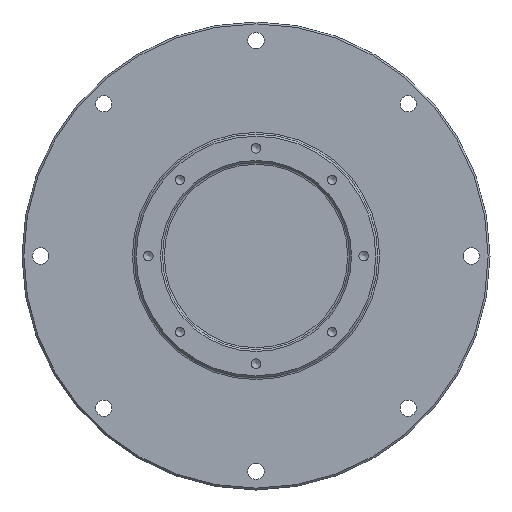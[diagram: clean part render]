
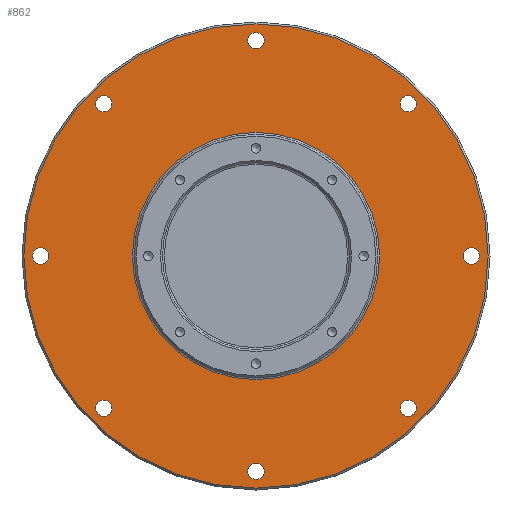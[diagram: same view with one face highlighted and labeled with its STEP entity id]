
A CAD part, left-side view. The second image highlights one B-rep face of the part: STEP entity #862.
In plain terms, the highlighted planar face has unit normal (-1, 0, 0).
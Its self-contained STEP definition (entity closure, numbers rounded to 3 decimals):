
#134=FACE_BOUND('',#257,.T.);
#135=FACE_BOUND('',#258,.T.);
#136=FACE_BOUND('',#259,.T.);
#137=FACE_BOUND('',#260,.T.);
#138=FACE_BOUND('',#261,.T.);
#139=FACE_BOUND('',#262,.T.);
#140=FACE_BOUND('',#263,.T.);
#141=FACE_BOUND('',#264,.T.);
#142=FACE_BOUND('',#265,.T.);
#166=PLANE('',#983);
#201=FACE_OUTER_BOUND('',#256,.T.);
#256=EDGE_LOOP('',(#709));
#257=EDGE_LOOP('',(#710));
#258=EDGE_LOOP('',(#711));
#259=EDGE_LOOP('',(#712));
#260=EDGE_LOOP('',(#713));
#261=EDGE_LOOP('',(#714));
#262=EDGE_LOOP('',(#715));
#263=EDGE_LOOP('',(#716));
#264=EDGE_LOOP('',(#717));
#265=EDGE_LOOP('',(#718));
#350=CIRCLE('',#978,132.);
#354=CIRCLE('',#984,248.);
#355=CIRCLE('',#985,8.75);
#356=CIRCLE('',#986,8.75);
#357=CIRCLE('',#987,8.75);
#358=CIRCLE('',#988,8.75);
#359=CIRCLE('',#989,8.75);
#360=CIRCLE('',#990,8.75);
#361=CIRCLE('',#991,8.75);
#362=CIRCLE('',#992,8.75);
#434=VERTEX_POINT('',#1487);
#437=VERTEX_POINT('',#1498);
#438=VERTEX_POINT('',#1500);
#439=VERTEX_POINT('',#1502);
#440=VERTEX_POINT('',#1504);
#441=VERTEX_POINT('',#1506);
#442=VERTEX_POINT('',#1508);
#443=VERTEX_POINT('',#1510);
#444=VERTEX_POINT('',#1512);
#445=VERTEX_POINT('',#1514);
#533=EDGE_CURVE('',#434,#434,#350,.T.);
#538=EDGE_CURVE('',#437,#437,#354,.T.);
#539=EDGE_CURVE('',#438,#438,#355,.T.);
#540=EDGE_CURVE('',#439,#439,#356,.T.);
#541=EDGE_CURVE('',#440,#440,#357,.T.);
#542=EDGE_CURVE('',#441,#441,#358,.T.);
#543=EDGE_CURVE('',#442,#442,#359,.T.);
#544=EDGE_CURVE('',#443,#443,#360,.T.);
#545=EDGE_CURVE('',#444,#444,#361,.T.);
#546=EDGE_CURVE('',#445,#445,#362,.T.);
#709=ORIENTED_EDGE('',*,*,#538,.F.);
#710=ORIENTED_EDGE('',*,*,#539,.T.);
#711=ORIENTED_EDGE('',*,*,#540,.T.);
#712=ORIENTED_EDGE('',*,*,#541,.T.);
#713=ORIENTED_EDGE('',*,*,#542,.T.);
#714=ORIENTED_EDGE('',*,*,#543,.T.);
#715=ORIENTED_EDGE('',*,*,#544,.T.);
#716=ORIENTED_EDGE('',*,*,#545,.T.);
#717=ORIENTED_EDGE('',*,*,#546,.T.);
#718=ORIENTED_EDGE('',*,*,#533,.F.);
#862=ADVANCED_FACE('',(#201,#134,#135,#136,#137,#138,#139,#140,#141,#142),
#166,.T.);
#978=AXIS2_PLACEMENT_3D('',#1489,#1208,#1209);
#983=AXIS2_PLACEMENT_3D('',#1497,#1219,#1220);
#984=AXIS2_PLACEMENT_3D('',#1499,#1221,#1222);
#985=AXIS2_PLACEMENT_3D('',#1501,#1223,#1224);
#986=AXIS2_PLACEMENT_3D('',#1503,#1225,#1226);
#987=AXIS2_PLACEMENT_3D('',#1505,#1227,#1228);
#988=AXIS2_PLACEMENT_3D('',#1507,#1229,#1230);
#989=AXIS2_PLACEMENT_3D('',#1509,#1231,#1232);
#990=AXIS2_PLACEMENT_3D('',#1511,#1233,#1234);
#991=AXIS2_PLACEMENT_3D('',#1513,#1235,#1236);
#992=AXIS2_PLACEMENT_3D('',#1515,#1237,#1238);
#1208=DIRECTION('center_axis',(-1.,0.,0.));
#1209=DIRECTION('ref_axis',(0.,-1.,0.));
#1219=DIRECTION('center_axis',(-1.,0.,0.));
#1220=DIRECTION('ref_axis',(0.,0.,1.));
#1221=DIRECTION('center_axis',(1.,0.,0.));
#1222=DIRECTION('ref_axis',(0.,-1.,0.));
#1223=DIRECTION('center_axis',(1.,0.,0.));
#1224=DIRECTION('ref_axis',(0.,0.707,0.707));
#1225=DIRECTION('center_axis',(1.,0.,0.));
#1226=DIRECTION('ref_axis',(0.,1.,0.));
#1227=DIRECTION('center_axis',(1.,0.,0.));
#1228=DIRECTION('ref_axis',(0.,0.707,-0.707));
#1229=DIRECTION('center_axis',(1.,0.,0.));
#1230=DIRECTION('ref_axis',(0.,0.,
-1.));
#1231=DIRECTION('center_axis',(1.,0.,0.));
#1232=DIRECTION('ref_axis',(0.,-0.707,-0.707));
#1233=DIRECTION('center_axis',(1.,0.,0.));
#1234=DIRECTION('ref_axis',(0.,-1.,0.));
#1235=DIRECTION('center_axis',(1.,0.,0.));
#1236=DIRECTION('ref_axis',(0.,-0.707,0.707));
#1237=DIRECTION('center_axis',(1.,0.,0.));
#1238=DIRECTION('ref_axis',(0.,0.,1.));
#1487=CARTESIAN_POINT('',(8.,0.,132.));
#1489=CARTESIAN_POINT('Origin',(8.,0.,0.));
#1497=CARTESIAN_POINT('Origin',(8.,250.,0.));
#1498=CARTESIAN_POINT('',(8.,248.,0.));
#1499=CARTESIAN_POINT('Origin',(8.,0.,0.));
#1500=CARTESIAN_POINT('',(8.,156.447,-168.822));
#1501=CARTESIAN_POINT('Origin',(8.,162.635,-162.635));
#1502=CARTESIAN_POINT('',(8.,-8.75,-230.));
#1503=CARTESIAN_POINT('Origin',(8.,0.,
-230.));
#1504=CARTESIAN_POINT('',(8.,-168.822,-156.447));
#1505=CARTESIAN_POINT('Origin',(8.,-162.635,-162.635));
#1506=CARTESIAN_POINT('',(8.,-230.,8.75));
#1507=CARTESIAN_POINT('Origin',(8.,-230.,0.));
#1508=CARTESIAN_POINT('',(8.,-156.447,168.822));
#1509=CARTESIAN_POINT('Origin',(8.,-162.635,162.635));
#1510=CARTESIAN_POINT('',(8.,8.75,230.));
#1511=CARTESIAN_POINT('Origin',(8.,0.,230.));
#1512=CARTESIAN_POINT('',(8.,168.822,156.447));
#1513=CARTESIAN_POINT('Origin',(8.,162.635,162.635));
#1514=CARTESIAN_POINT('',(8.,230.,-8.75));
#1515=CARTESIAN_POINT('Origin',(8.,230.,0.));
